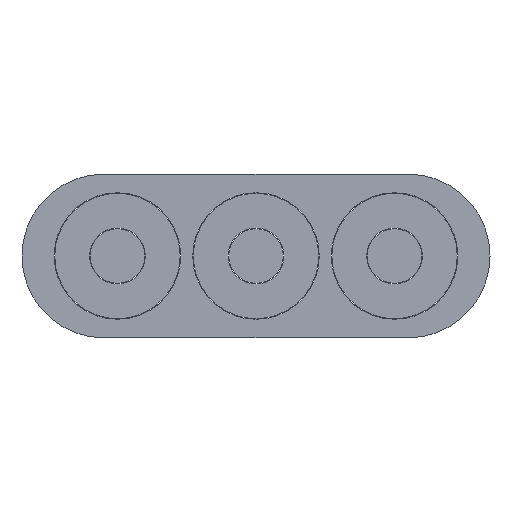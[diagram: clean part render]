
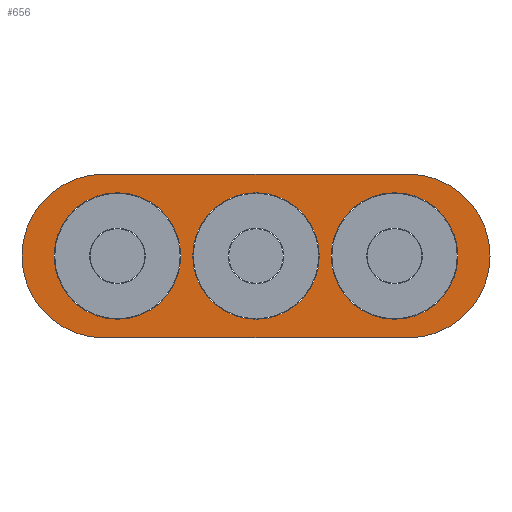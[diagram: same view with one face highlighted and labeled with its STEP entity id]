
A CAD part, front view. The second image highlights one B-rep face of the part: STEP entity #656.
In plain terms, the highlighted planar face has unit normal (0, -1, 0).
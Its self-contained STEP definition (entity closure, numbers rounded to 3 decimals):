
#20 = CARTESIAN_POINT ( 'NONE',  ( 0., 0., 0.75 ) ) ;
#27 = DIRECTION ( 'NONE',  ( 0., 0., 1. ) ) ;
#51 = CARTESIAN_POINT ( 'NONE',  ( 2.79, 0., 0.75 ) ) ;
#72 = EDGE_CURVE ( 'NONE', #630, #783, #900, .T. ) ;
#76 = DIRECTION ( 'NONE',  ( 0., 1., 0. ) ) ;
#80 = ORIENTED_EDGE ( 'NONE', *, *, #1189, .F. ) ;
#112 = EDGE_CURVE ( 'NONE', #783, #630, #1069, .T. ) ;
#126 = EDGE_CURVE ( 'NONE', #820, #371, #670, .T. ) ;
#138 = EDGE_CURVE ( 'NONE', #598, #820, #786, .T. ) ;
#180 = VERTEX_POINT ( 'NONE', #574 ) ;
#208 = DIRECTION ( 'NONE',  ( 0., 0., 1. ) ) ;
#252 = PLANE ( 'NONE',  #703 ) ;
#295 = DIRECTION ( 'NONE',  ( 0., 1., 0. ) ) ;
#302 = EDGE_CURVE ( 'NONE', #1042, #1200, #654, .T. ) ;
#310 = CARTESIAN_POINT ( 'NONE',  ( 2.665, 0., 0.58 ) ) ;
#319 = ORIENTED_EDGE ( 'NONE', *, *, #72, .T. ) ;
#329 = EDGE_LOOP ( 'NONE', ( #1169, #564 ) ) ;
#332 = DIRECTION ( 'NONE',  ( 0., 0., 1. ) ) ;
#335 = AXIS2_PLACEMENT_3D ( 'NONE', #487, #973, #208 ) ;
#340 = CARTESIAN_POINT ( 'NONE',  ( 2.665, 0., -0.58 ) ) ;
#342 = FACE_OUTER_BOUND ( 'NONE', #530, .T. ) ;
#349 = ORIENTED_EDGE ( 'NONE', *, *, #112, .T. ) ;
#350 = DIRECTION ( 'NONE',  ( 0., 1., 0. ) ) ;
#362 = DIRECTION ( 'NONE',  ( 0., 0., 1. ) ) ;
#366 = CARTESIAN_POINT ( 'NONE',  ( 1.395, 0., -0.58 ) ) ;
#371 = VERTEX_POINT ( 'NONE', #51 ) ;
#376 = VERTEX_POINT ( 'NONE', #419 ) ;
#379 = CARTESIAN_POINT ( 'NONE',  ( 2.665, 0., 0. ) ) ;
#386 = CARTESIAN_POINT ( 'NONE',  ( 1.395, 0., 0. ) ) ;
#390 = CARTESIAN_POINT ( 'NONE',  ( 2.665, 0., 0. ) ) ;
#404 = DIRECTION ( 'NONE',  ( 0., 0., 1. ) ) ;
#416 = AXIS2_PLACEMENT_3D ( 'NONE', #379, #295, #855 ) ;
#419 = CARTESIAN_POINT ( 'NONE',  ( 0.125, 0., -0.58 ) ) ;
#454 = CARTESIAN_POINT ( 'NONE',  ( 2.79, 0., 0. ) ) ;
#464 = ORIENTED_EDGE ( 'NONE', *, *, #126, .F. ) ;
#474 = CIRCLE ( 'NONE', #573, 0.58 ) ;
#476 = AXIS2_PLACEMENT_3D ( 'NONE', #386, #877, #482 ) ;
#480 = CARTESIAN_POINT ( 'NONE',  ( 1.395, 0., 0.58 ) ) ;
#482 = DIRECTION ( 'NONE',  ( 0., 0., 1. ) ) ;
#487 = CARTESIAN_POINT ( 'NONE',  ( 0., 0., 0. ) ) ;
#497 = VECTOR ( 'NONE', #1136, 1000. ) ;
#527 = CARTESIAN_POINT ( 'NONE',  ( 0., 0., -0.75 ) ) ;
#529 = LINE ( 'NONE', #993, #1019 ) ;
#530 = EDGE_LOOP ( 'NONE', ( #1014, #80, #758, #464 ) ) ;
#564 = ORIENTED_EDGE ( 'NONE', *, *, #864, .T. ) ;
#573 = AXIS2_PLACEMENT_3D ( 'NONE', #813, #350, #332 ) ;
#574 = CARTESIAN_POINT ( 'NONE',  ( 2.79, 0., -0.75 ) ) ;
#582 = EDGE_CURVE ( 'NONE', #1133, #376, #474, .T. ) ;
#598 = VERTEX_POINT ( 'NONE', #527 ) ;
#611 = DIRECTION ( 'NONE',  ( 0., 0., 1. ) ) ;
#630 = VERTEX_POINT ( 'NONE', #366 ) ;
#631 = CARTESIAN_POINT ( 'NONE',  ( 0., 0., 0. ) ) ;
#654 = CIRCLE ( 'NONE', #416, 0.58 ) ;
#656 = ADVANCED_FACE ( 'NONE', ( #932, #811, #733, #342 ), #252, .F. ) ;
#670 = LINE ( 'NONE', #1050, #497 ) ;
#688 = CIRCLE ( 'NONE', #1004, 0.58 ) ;
#703 = AXIS2_PLACEMENT_3D ( 'NONE', #631, #924, #1186 ) ;
#732 = ORIENTED_EDGE ( 'NONE', *, *, #1072, .T. ) ;
#733 = FACE_BOUND ( 'NONE', #329, .T. ) ;
#758 = ORIENTED_EDGE ( 'NONE', *, *, #761, .F. ) ;
#761 = EDGE_CURVE ( 'NONE', #371, #180, #983, .T. ) ;
#783 = VERTEX_POINT ( 'NONE', #480 ) ;
#786 = CIRCLE ( 'NONE', #335, 0.75 ) ;
#811 = FACE_BOUND ( 'NONE', #1144, .T. ) ;
#813 = CARTESIAN_POINT ( 'NONE',  ( 0.125, 0., 0. ) ) ;
#820 = VERTEX_POINT ( 'NONE', #20 ) ;
#826 = AXIS2_PLACEMENT_3D ( 'NONE', #988, #1077, #611 ) ;
#855 = DIRECTION ( 'NONE',  ( 0., 0., 1. ) ) ;
#864 = EDGE_CURVE ( 'NONE', #1200, #1042, #688, .T. ) ;
#877 = DIRECTION ( 'NONE',  ( 0., 1., 0. ) ) ;
#900 = CIRCLE ( 'NONE', #986, 0.58 ) ;
#924 = DIRECTION ( 'NONE',  ( 0., 1., 0. ) ) ;
#932 = FACE_BOUND ( 'NONE', #1112, .T. ) ;
#950 = CIRCLE ( 'NONE', #826, 0.58 ) ;
#973 = DIRECTION ( 'NONE',  ( 0., 1., 0. ) ) ;
#983 = CIRCLE ( 'NONE', #1079, 0.75 ) ;
#986 = AXIS2_PLACEMENT_3D ( 'NONE', #1056, #1142, #404 ) ;
#988 = CARTESIAN_POINT ( 'NONE',  ( 0.125, 0., 0. ) ) ;
#993 = CARTESIAN_POINT ( 'NONE',  ( 0., 0., -0.75 ) ) ;
#1004 = AXIS2_PLACEMENT_3D ( 'NONE', #390, #1048, #27 ) ;
#1014 = ORIENTED_EDGE ( 'NONE', *, *, #138, .F. ) ;
#1019 = VECTOR ( 'NONE', #1203, 1000. ) ;
#1021 = CARTESIAN_POINT ( 'NONE',  ( 0.125, 0., 0.58 ) ) ;
#1042 = VERTEX_POINT ( 'NONE', #310 ) ;
#1048 = DIRECTION ( 'NONE',  ( 0., 1., 0. ) ) ;
#1050 = CARTESIAN_POINT ( 'NONE',  ( 0., 0., 0.75 ) ) ;
#1056 = CARTESIAN_POINT ( 'NONE',  ( 1.395, 0., 0. ) ) ;
#1069 = CIRCLE ( 'NONE', #476, 0.58 ) ;
#1072 = EDGE_CURVE ( 'NONE', #376, #1133, #950, .T. ) ;
#1077 = DIRECTION ( 'NONE',  ( 0., 1., 0. ) ) ;
#1079 = AXIS2_PLACEMENT_3D ( 'NONE', #454, #76, #362 ) ;
#1112 = EDGE_LOOP ( 'NONE', ( #1193, #732 ) ) ;
#1133 = VERTEX_POINT ( 'NONE', #1021 ) ;
#1136 = DIRECTION ( 'NONE',  ( 1., 0., 0. ) ) ;
#1142 = DIRECTION ( 'NONE',  ( 0., 1., 0. ) ) ;
#1144 = EDGE_LOOP ( 'NONE', ( #349, #319 ) ) ;
#1169 = ORIENTED_EDGE ( 'NONE', *, *, #302, .T. ) ;
#1186 = DIRECTION ( 'NONE',  ( 0., 0., 1. ) ) ;
#1189 = EDGE_CURVE ( 'NONE', #180, #598, #529, .T. ) ;
#1193 = ORIENTED_EDGE ( 'NONE', *, *, #582, .T. ) ;
#1200 = VERTEX_POINT ( 'NONE', #340 ) ;
#1203 = DIRECTION ( 'NONE',  ( -1., 0., 0. ) ) ;
